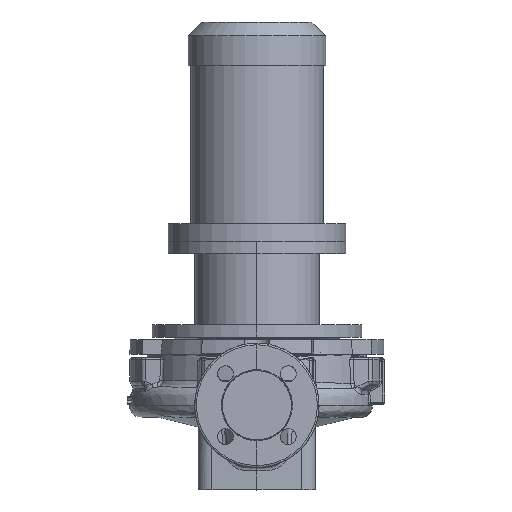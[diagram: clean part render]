
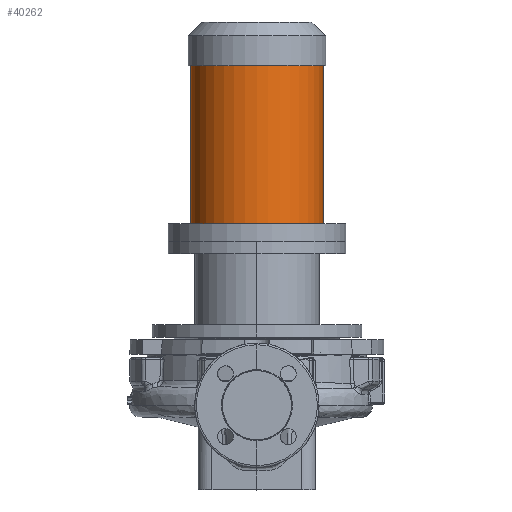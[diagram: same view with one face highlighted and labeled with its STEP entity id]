
A CAD part, top view. The second image highlights one B-rep face of the part: STEP entity #40262.
In plain terms, the highlighted cylindrical face has radius 74.5 mm (diameter 149 mm), a partial arc.
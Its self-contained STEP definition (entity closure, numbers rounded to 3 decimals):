
#1071 = EDGE_CURVE ( 'NONE', #37021, #55417, #31640, .T. ) ;
#2951 = LINE ( 'NONE', #49008, #30722 ) ;
#5786 = DIRECTION ( 'NONE',  ( 0., -1., 0. ) ) ;
#7763 = LINE ( 'NONE', #12291, #51750 ) ;
#10744 = CARTESIAN_POINT ( 'NONE',  ( 74.5, 382.8, 0. ) ) ;
#12086 = EDGE_CURVE ( 'NONE', #55417, #26001, #2951, .T. ) ;
#12291 = CARTESIAN_POINT ( 'NONE',  ( 74.5, 184.8, 0. ) ) ;
#14588 = EDGE_CURVE ( 'NONE', #37021, #57162, #7763, .T. ) ;
#15648 = ORIENTED_EDGE ( 'NONE', *, *, #14588, .F. ) ;
#17037 = DIRECTION ( 'NONE',  ( -1., 0., 0. ) ) ;
#21143 = DIRECTION ( 'NONE',  ( 0., -1., 0. ) ) ;
#21783 = CARTESIAN_POINT ( 'NONE',  ( -74.5, 382.8, 0. ) ) ;
#23974 = CARTESIAN_POINT ( 'NONE',  ( 74.5, 204.8, 0. ) ) ;
#25090 = DIRECTION ( 'NONE',  ( 0., -1., 0. ) ) ;
#25539 = FACE_OUTER_BOUND ( 'NONE', #56097, .T. ) ;
#26001 = VERTEX_POINT ( 'NONE', #41804 ) ;
#26469 = AXIS2_PLACEMENT_3D ( 'NONE', #61146, #32442, #51626 ) ;
#29127 = ORIENTED_EDGE ( 'NONE', *, *, #42166, .F. ) ;
#30722 = VECTOR ( 'NONE', #25090, 1000. ) ;
#31640 = CIRCLE ( 'NONE', #43486, 74.5 ) ;
#32442 = DIRECTION ( 'NONE',  ( 0., -1., 0. ) ) ;
#33156 = CYLINDRICAL_SURFACE ( 'NONE', #26469, 74.5 ) ;
#36054 = ORIENTED_EDGE ( 'NONE', *, *, #12086, .T. ) ;
#37021 = VERTEX_POINT ( 'NONE', #10744 ) ;
#40262 = ADVANCED_FACE ( 'NONE', ( #25539 ), #33156, .T. ) ;
#41804 = CARTESIAN_POINT ( 'NONE',  ( -74.5, 204.8, 0. ) ) ;
#42166 = EDGE_CURVE ( 'NONE', #57162, #26001, #50617, .T. ) ;
#43486 = AXIS2_PLACEMENT_3D ( 'NONE', #45914, #5786, #50003 ) ;
#45914 = CARTESIAN_POINT ( 'NONE',  ( 0., 382.8, 0. ) ) ;
#46770 = DIRECTION ( 'NONE',  ( 0., -1., 0. ) ) ;
#49008 = CARTESIAN_POINT ( 'NONE',  ( -74.5, 184.8, 0. ) ) ;
#50003 = DIRECTION ( 'NONE',  ( -1., 0., 0. ) ) ;
#50617 = CIRCLE ( 'NONE', #62867, 74.5 ) ;
#50836 = CARTESIAN_POINT ( 'NONE',  ( 0., 204.8, 0. ) ) ;
#51626 = DIRECTION ( 'NONE',  ( -1., 0., 0. ) ) ;
#51750 = VECTOR ( 'NONE', #46770, 1000. ) ;
#55417 = VERTEX_POINT ( 'NONE', #21783 ) ;
#56097 = EDGE_LOOP ( 'NONE', ( #15648, #57396, #36054, #29127 ) ) ;
#57162 = VERTEX_POINT ( 'NONE', #23974 ) ;
#57396 = ORIENTED_EDGE ( 'NONE', *, *, #1071, .T. ) ;
#61146 = CARTESIAN_POINT ( 'NONE',  ( 0., 184.8, 0. ) ) ;
#62867 = AXIS2_PLACEMENT_3D ( 'NONE', #50836, #21143, #17037 ) ;
